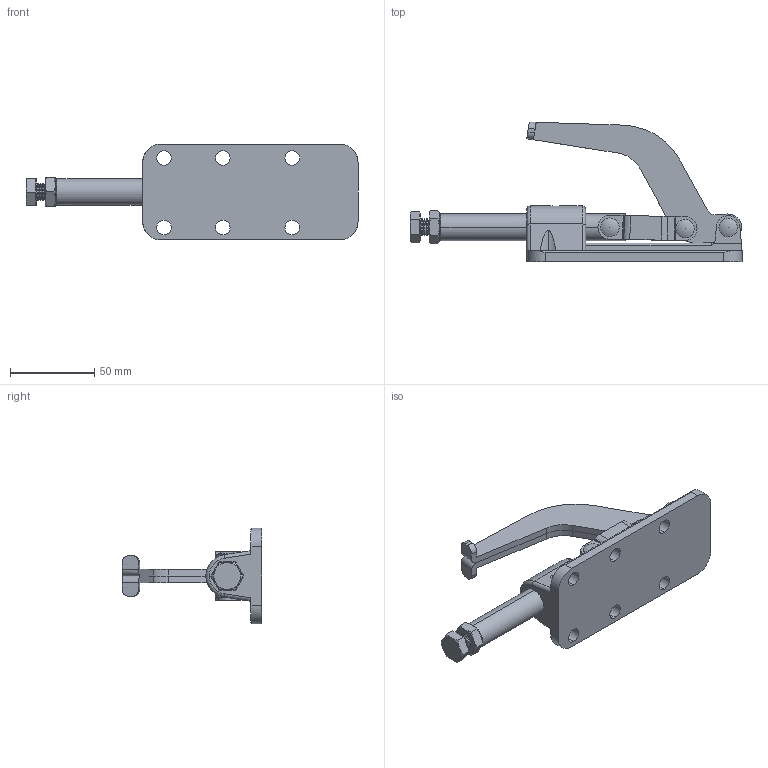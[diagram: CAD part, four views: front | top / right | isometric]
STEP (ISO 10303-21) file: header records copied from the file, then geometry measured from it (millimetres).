
FILE_DESCRIPTION (( 'STEP AP214' ), '1' );
FILE_NAME ('ISK-SL3500.STEP', '2015-08-11T02:03:59', ( '' ), ( '' ), 'SwSTEP 2.0', 'SolidWorks 2015', '' );
FILE_SCHEMA (( 'AUTOMOTIVE_DESIGN' ));
Length unit declared in the file: millimetre
Products named in the file (10): Link; Handle; Arm; Base; ISK-SL3500; Rivet_Φ8×25; Rivet_Φ8×17; Rivet_Φ8×16; hexagon nut_3_jis_JIS B 1181 Hexagon nut - Class 3 Finished M10 --N; continuous thread hexagon head bolt_a_jis_JIS B 1180 Continuous thread hexagon head bolt A M10 x 30 --S
Assembly tree (10 placements, depth 2):
  ISK-SL3500
    Base
    Arm
    Handle
    Link  x2
    continuous thread hexagon head bolt_a_jis_JIS B 1180 Continuous thread hexagon head bolt A M10 x 30 --S
    hexagon nut_3_jis_JIS B 1181 Hexagon nut - Class 3 Finished M10 --N
    Rivet_Φ8×16
    Rivet_Φ8×17
    Rivet_Φ8×25
Bounding box: 197.4 x 83.15 x 57 mm (x, y, z)
Volume: 124104 mm3; surface area: 53841.5 mm2
Topology: 11 solids, 11 shells, 437 faces, 1061 edges, 647 vertices
Faces by surface type: cylinder 163, plane 135, cone 124, bspline 8, torus 4, sphere 3
Entity records: 17168 total; most frequent: CARTESIAN_POINT 7237, DIRECTION 2115, ORIENTED_EDGE 1918, EDGE_CURVE 959, AXIS2_PLACEMENT_3D 840, VERTEX_POINT 591, CIRCLE 441, EDGE_LOOP 436
